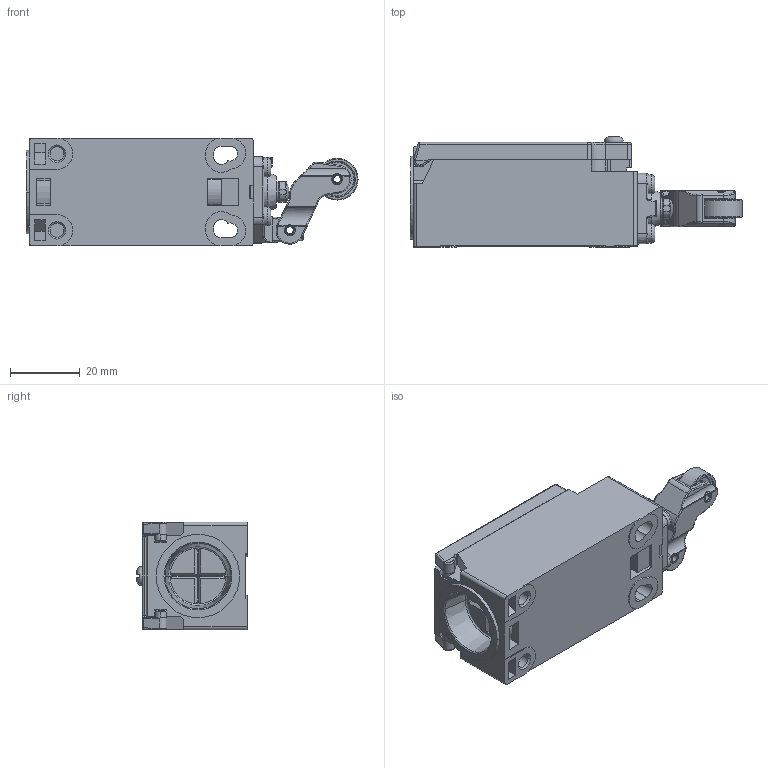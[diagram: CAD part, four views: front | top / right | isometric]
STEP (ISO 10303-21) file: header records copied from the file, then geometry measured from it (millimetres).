
FILE_DESCRIPTION(('FreeCAD Model'),'2;1');
FILE_NAME('Open CASCADE Shape Model','2026-09-09T09:57:49',(''),(''), 'Open CASCADE STEP processor 7.8','FreeCAD','Unknown');
FILE_SCHEMA(('AUTOMOTIVE_DESIGN { 1 0 10303 214 1 1 1 1 }'));
Length unit declared in the file: millimetre
Products named in the file (23): FS9624; 1; 2; 3; 4; 5; 6; 7; 8; 9; 10; 11; 12; 13; 14; 15; 16; 17; 18; 19; 20; 21; 22
Assembly tree (22 placements, depth 2):
  FS9624
    1
    2
    3
    4
    5
    6
    7
    8
    9
    10
    11
    12
    13
    14
    15
    16
    17
    18
    19
    20
    21
    22
Bounding box: 95.36 x 31.6 x 31.02 mm (x, y, z)
Volume: 28611 mm3; surface area: 30731.7 mm2
Topology: 21 solids, 22 shells, 1449 faces, 3781 edges, 2421 vertices
Faces by surface type: plane 777, cylinder 405, cone 101, torus 69, bspline 69, sphere 28
Full cylindrical faces by diameter (mm): 2.8 x7, 3 x16, 4 x1, 5.5 x5, 6 x1, 10.6 x1, 11.5 x1, 11.6 x1, 13.3 x1, 14 x1
Entity records: 69244 total; most frequent: CARTESIAN_POINT 32986, ORIENTED_EDGE 7555, DIRECTION 7435, EDGE_CURVE 3779, AXIS2_PLACEMENT_3D 2647, VERTEX_POINT 2421, LINE 2141, VECTOR 2141
